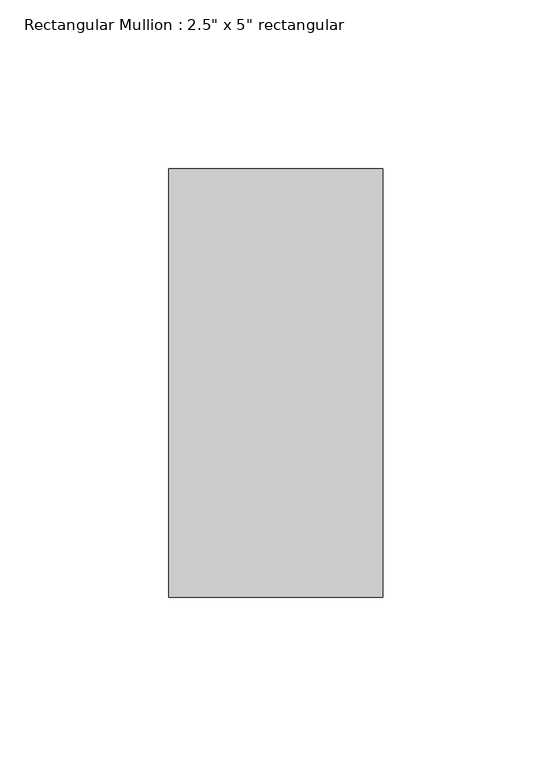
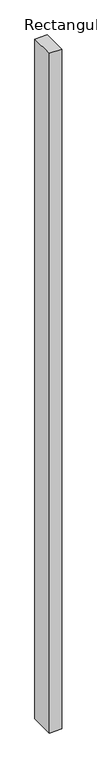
"""IFC4 building model written with IfcOpenShell, lengths in millimetres: member geometry."""

from ifc_helpers import new_model, si_unit, frame, origin, place, context, project, spatial, polyline, outline, extrude, source, transform, mapped, element, save


def member_810865a4(model_context):
    return source(origin(), model_context, "Body", "SweptSolid", [
        extrude(outline(polyline([(31.75, 63.5), (31.75, -63.5), (-31.75, -63.5), (-31.75, 63.5), (31.75, 63.5)])), frame((0.0, 0.0, -3657.6), z_axis=(0.0, 0.0, 1.0), x_axis=(1.0, 0.0, 0.0)), (0.0, 0.0, 1.0), 3657.6),
    ])


if __name__ == "__main__":
    model = new_model("IFC4")
    model_context = context("Model", 3, world=origin())
    ifc_project = project(units=[si_unit("LENGTHUNIT", "METRE", prefix="MILLI")], contexts=[model_context])
    site = spatial("IfcSite", under=ifc_project)
    building = spatial("IfcBuilding", under=site)
    placement = place(None, origin())
    member_shape = member_810865a4(model_context)
    element("IfcMember", 1, ObjectType="Rectangular Mullion : 2.5\" x 5\" rectangular", at=placement, inside=building, context=model_context, shape_type="MappedRepresentation", body=[
        mapped(member_shape, transform((0.0, 0.0, 0.0), x_axis=(1.0, 0.0, 0.0), y_axis=(0.0, 1.0, 0.0), z_axis=(0.0, 0.0, 1.0))),
    ])
    save(model, "model.ifc")
